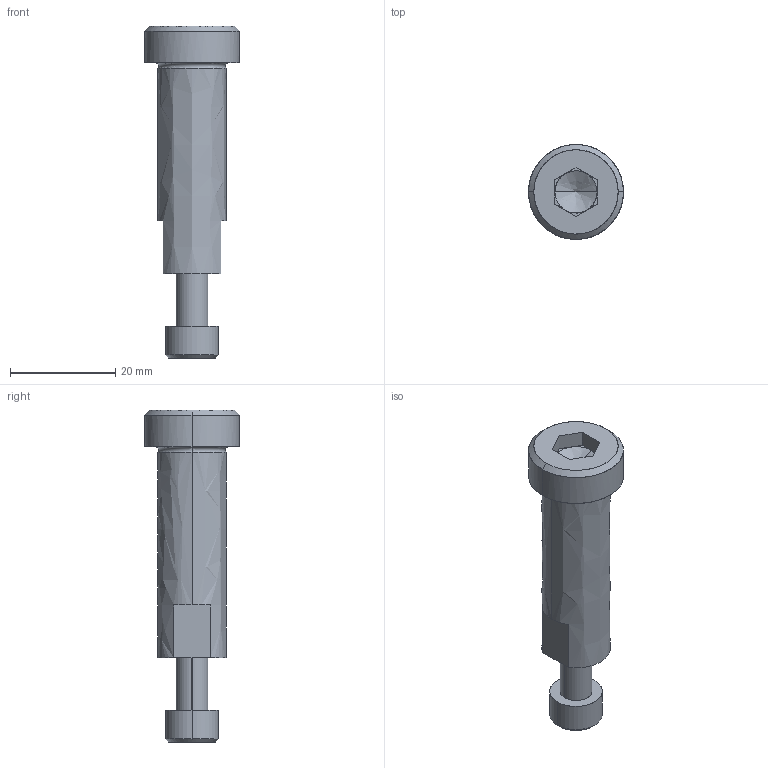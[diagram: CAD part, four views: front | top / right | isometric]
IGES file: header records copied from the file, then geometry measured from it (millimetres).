
Global section: file name: E:\UnigraphicsGraphicData\MISUMI_PRESS-PARTS\IGES\3d_sbt13-40_05083_r00.igs; native system: NX V5.0; preprocessor: UGS NX IGES V5.0; author: MISUMI; date: 20110105.162434; units: millimetre
Bounding box: 18 x 18 x 63 mm (x, y, z)
Surface area: 3766.5 mm2 (no closed solid volume)
Topology: 0 solids, 0 shells, 56 faces, 310 edges, 306 vertices
Faces by surface type: bspline 56
